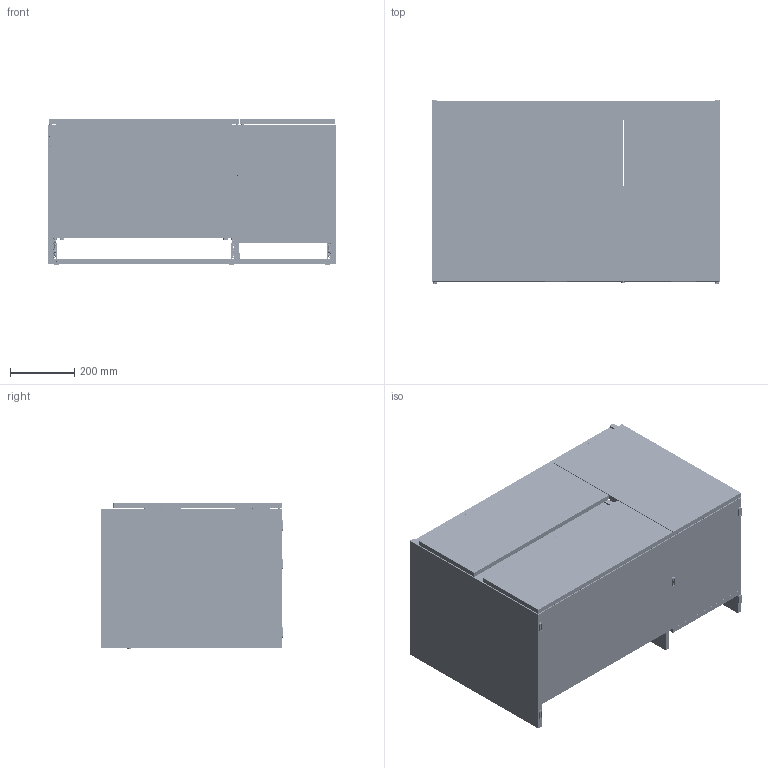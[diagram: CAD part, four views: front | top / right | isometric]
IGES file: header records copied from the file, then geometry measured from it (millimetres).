
Start section: SolidWorks IGES file using analytic representation for surfaces
Global section: file name: E:\MAPLE_900_2GV_1PT_3D_F.IGS; native system: SolidWorks 2021; preprocessor: SolidWorks 2021; author: LINECA; date: 211210.145046; units: millimetre
Bounding box: 895 x 569.3 x 452.59 mm (x, y, z)
Surface area: 6561854 mm2 (no closed solid volume)
Topology: 0 solids, 0 shells, 6799 faces, 76713 edges, 76433 vertices
Faces by surface type: bspline 6759, revolution 40
